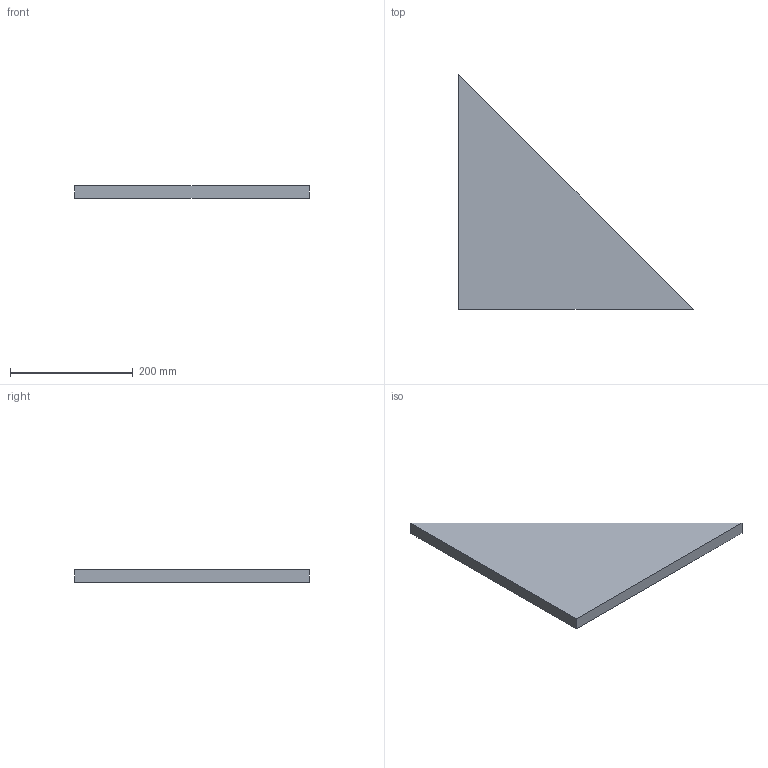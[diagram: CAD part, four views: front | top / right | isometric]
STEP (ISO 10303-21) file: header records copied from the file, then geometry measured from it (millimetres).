
FILE_DESCRIPTION (( 'STEP AP203' ), '1' );
FILE_NAME ('Isolation_Parois_Verticale.STEP', '2026-06-24T07:29:48', ( '' ), ( '' ), 'SwSTEP 2.0', 'SolidWorks 2024', '' );
FILE_SCHEMA (( 'CONFIG_CONTROL_DESIGN' ));
Length unit declared in the file: millimetre
Products named in the file (1): Isolation_Parois_Verticale
Bounding box: 383 x 383 x 20 mm (x, y, z)
Volume: 1466890 mm3; surface area: 172841.9 mm2
Topology: 1 solids, 1 shells, 5 faces, 9 edges, 6 vertices
Faces by surface type: plane 5
Entity records: 198 total; most frequent: CARTESIAN_POINT 21, DIRECTION 21, ORIENTED_EDGE 18, VECTOR 9, EDGE_CURVE 9, LINE 9, PERSON_AND_ORGANIZATION 8, VERTEX_POINT 6
